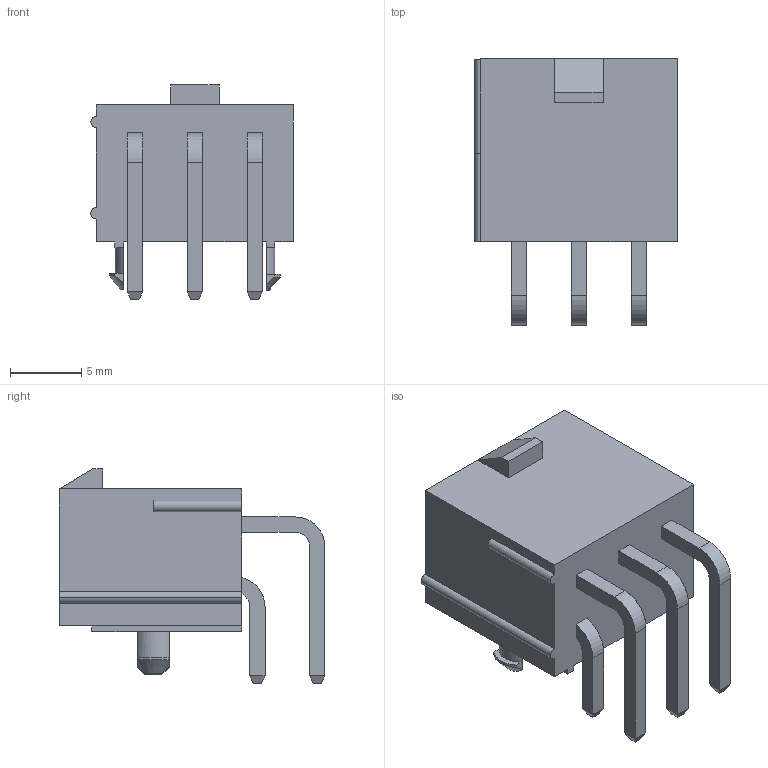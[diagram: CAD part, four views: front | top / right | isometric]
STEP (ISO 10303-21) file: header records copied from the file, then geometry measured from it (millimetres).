
FILE_DESCRIPTION(('Open CASCADE Model'),'2;1');
FILE_NAME('Open CASCADE Shape Model','2026-10-25T11:09:13',('Author'),( 'Open CASCADE'),'Open CASCADE STEP processor 8.0','Open CASCADE 8.0' ,'Unknown');
FILE_SCHEMA(('AUTOMOTIVE_DESIGN { 1 0 10303 214 1 1 1 1 }'));
Length unit declared in the file: millimetre
Products named in the file (1): Open CASCADE STEP translator 8.0 33
Bounding box: 14.2 x 18.64 x 15.01 mm (x, y, z)
Volume: 1160.6 mm3; surface area: 2089.5 mm2
Topology: 1 solids, 1 shells, 245 faces, 585 edges, 360 vertices
Faces by surface type: plane 224, cylinder 19, cone 2
Entity records: 14756 total; most frequent: CARTESIAN_POINT 2745, DIRECTION 2250, LINE 1636, VECTOR 1636, ORIENTED_EDGE 1170, PCURVE 1170, DEFINITIONAL_REPRESENTATION 1170, EDGE_CURVE 585
